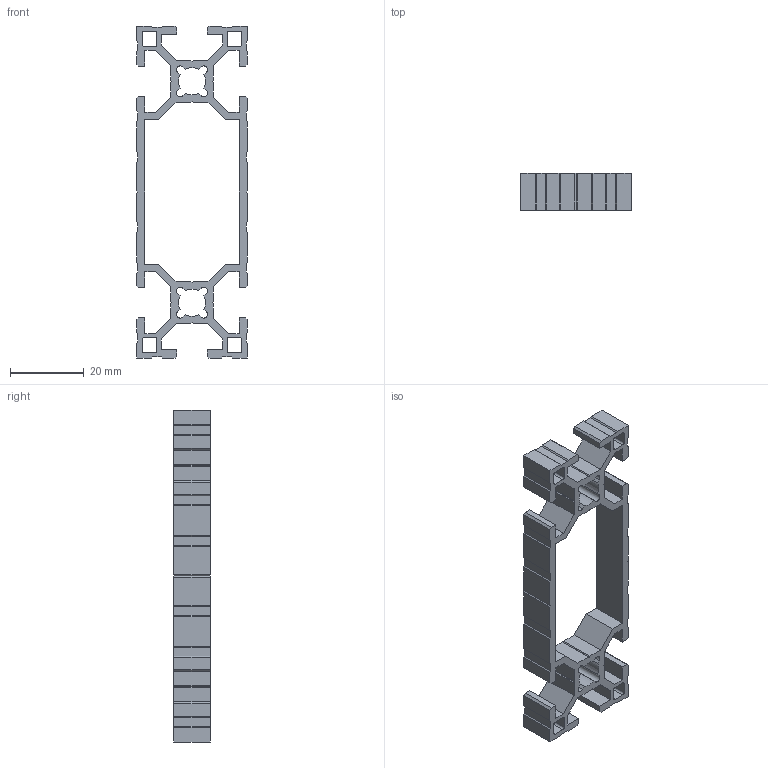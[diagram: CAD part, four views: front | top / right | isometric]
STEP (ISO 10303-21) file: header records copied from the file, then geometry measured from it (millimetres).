
FILE_DESCRIPTION((''),'2;1');
FILE_NAME('PR0300908','2002-12-27T',('Lipro doo'),('Lipro d.o.o.'),'PRO/ENGINEER BY PARAMETRIC TECHNOLOGY CORPORATION, 2001150','PRO/ENGINEER BY PARAMETRIC TECHNOLOGY CORPORATION, 2001150','');
FILE_SCHEMA(('CONFIG_CONTROL_DESIGN'));
Length unit declared in the file: millimetre
Products named in the file (1): PR0300908
Bounding box: 30 x 10 x 90 mm (x, y, z)
Volume: 6585 mm3; surface area: 8287.1 mm2
Topology: 1 solids, 1 shells, 248 faces, 738 edges, 492 vertices
Faces by surface type: plane 216, cylinder 32
Entity records: 8272 total; most frequent: CARTESIAN_POINT 1478, ORIENTED_EDGE 1476, DIRECTION 1298, EDGE_CURVE 738, VECTOR 674, LINE 674, VERTEX_POINT 492, AXIS2_PLACEMENT_3D 312
